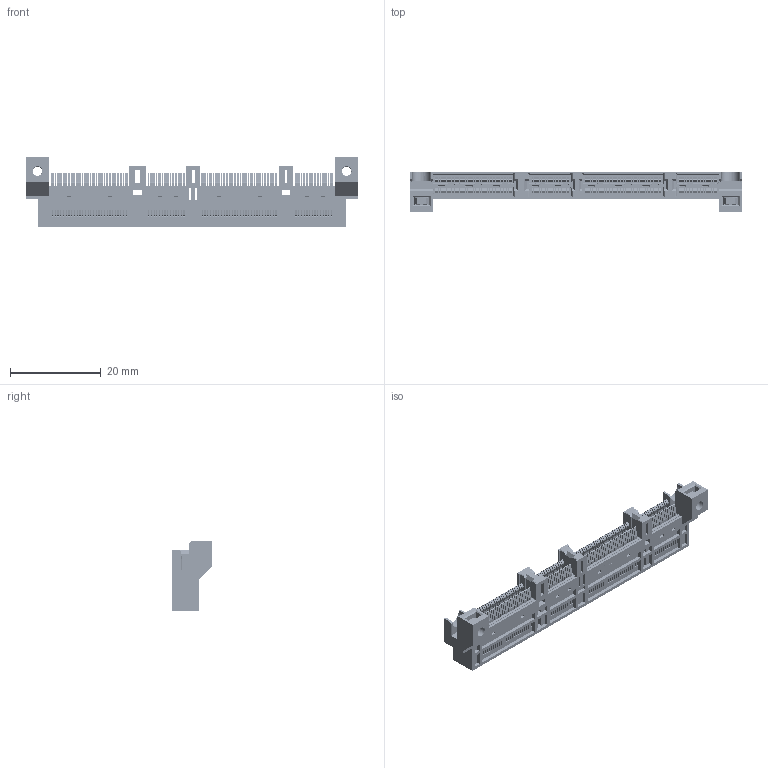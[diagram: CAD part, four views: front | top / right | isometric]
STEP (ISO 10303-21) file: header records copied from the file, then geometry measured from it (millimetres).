
FILE_DESCRIPTION((''),'2;1');
FILE_NAME('PRT0001','2026-07-13T11:39:39',('31000862'),(''),'CREO PARAMETRIC BY PTC INC, 2022244','CREO PARAMETRIC BY PTC INC, 2022244','');
FILE_SCHEMA(('CONFIG_CONTROL_DESIGN'));
Products named in the file (1): PRT0001
Bounding box: 73 x 9 x 15.2 mm (x, y, z)
Volume: 2828.3 mm3; surface area: 9090.4 mm2
Topology: 1 solids, 81 shells, 11908 faces, 36677 edges, 23814 vertices
Faces by surface type: plane 8968, cylinder 2256, bspline 348, torus 228, cone 108
Entity records: 417310 total; most frequent: CARTESIAN_POINT 87336, ORIENTED_EDGE 73118, DIRECTION 63697, EDGE_CURVE 36649, VECTOR 30019, LINE 30019, VERTEX_POINT 23814, AXIS2_PLACEMENT_3D 16839
